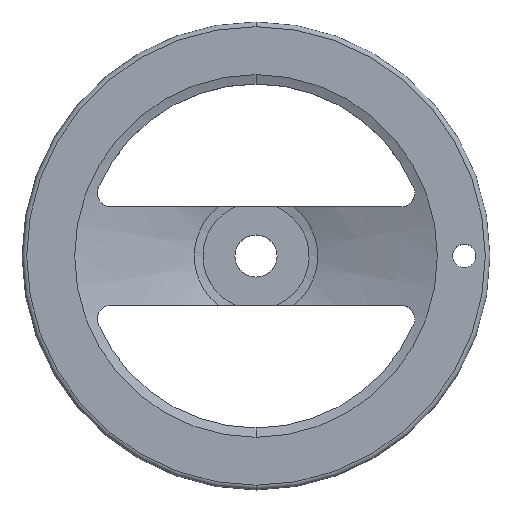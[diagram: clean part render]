
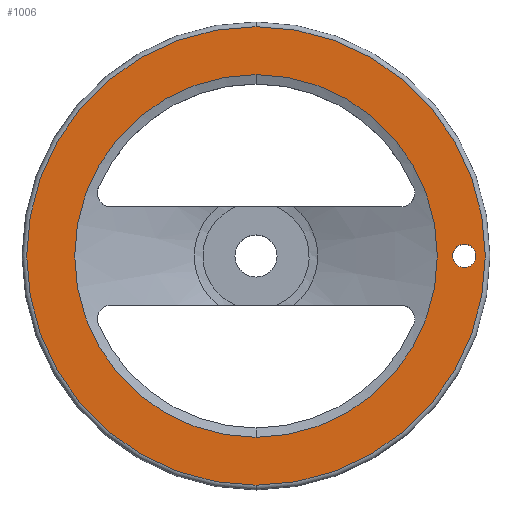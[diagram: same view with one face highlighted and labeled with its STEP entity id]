
A CAD part, top view. The second image highlights one B-rep face of the part: STEP entity #1006.
In plain terms, the highlighted planar face has unit normal (0, 0, 1).
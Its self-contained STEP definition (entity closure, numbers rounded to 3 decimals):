
#1 = ORIENTED_EDGE ( 'NONE', *, *, #875, .F. ) ;
#47 = ORIENTED_EDGE ( 'NONE', *, *, #577, .T. ) ;
#65 = DIRECTION ( 'NONE',  ( 0., -1., 0. ) ) ;
#79 = CIRCLE ( 'NONE', #584, 5. ) ;
#81 = CIRCLE ( 'NONE', #928, 77.5 ) ;
#93 = CARTESIAN_POINT ( 'NONE',  ( 0., 0., 45. ) ) ;
#149 = CIRCLE ( 'NONE', #177, 98. ) ;
#158 = CARTESIAN_POINT ( 'NONE',  ( 0., 77.5, 45. ) ) ;
#171 = FACE_BOUND ( 'NONE', #744, .T. ) ;
#177 = AXIS2_PLACEMENT_3D ( 'NONE', #1456, #651, #410 ) ;
#181 = FACE_OUTER_BOUND ( 'NONE', #1463, .T. ) ;
#192 = ORIENTED_EDGE ( 'NONE', *, *, #1490, .F. ) ;
#257 = PLANE ( 'NONE',  #492 ) ;
#298 = DIRECTION ( 'NONE',  ( 0., 0., -1. ) ) ;
#315 = DIRECTION ( 'NONE',  ( 0., 0., -1. ) ) ;
#337 = DIRECTION ( 'NONE',  ( 1., 0., 0. ) ) ;
#353 = CARTESIAN_POINT ( 'NONE',  ( 84., 0., 45. ) ) ;
#369 = CIRCLE ( 'NONE', #1203, 98. ) ;
#405 = CARTESIAN_POINT ( 'NONE',  ( -99.517, -99.176, 45. ) ) ;
#410 = DIRECTION ( 'NONE',  ( 0., 1., 0. ) ) ;
#420 = CARTESIAN_POINT ( 'NONE',  ( 89., 0., 45. ) ) ;
#432 = DIRECTION ( 'NONE',  ( 0., -1., 0. ) ) ;
#468 = CIRCLE ( 'NONE', #1323, 5. ) ;
#492 = AXIS2_PLACEMENT_3D ( 'NONE', #405, #735, #1097 ) ;
#521 = ORIENTED_EDGE ( 'NONE', *, *, #1152, .T. ) ;
#558 = DIRECTION ( 'NONE',  ( 0., 0., -1. ) ) ;
#577 = EDGE_CURVE ( 'NONE', #1181, #1319, #79, .T. ) ;
#584 = AXIS2_PLACEMENT_3D ( 'NONE', #420, #768, #1115 ) ;
#639 = AXIS2_PLACEMENT_3D ( 'NONE', #1016, #1246, #432 ) ;
#651 = DIRECTION ( 'NONE',  ( 0., 0., -1. ) ) ;
#656 = DIRECTION ( 'NONE',  ( 0., 1., 0. ) ) ;
#677 = EDGE_CURVE ( 'NONE', #1319, #1181, #468, .T. ) ;
#679 = CARTESIAN_POINT ( 'NONE',  ( 0., 98., 45. ) ) ;
#735 = DIRECTION ( 'NONE',  ( 0., 0., -1. ) ) ;
#744 = EDGE_LOOP ( 'NONE', ( #1461, #47 ) ) ;
#768 = DIRECTION ( 'NONE',  ( 0., 0., -1. ) ) ;
#807 = CIRCLE ( 'NONE', #639, 77.5 ) ;
#870 = ORIENTED_EDGE ( 'NONE', *, *, #1104, .T. ) ;
#875 = EDGE_CURVE ( 'NONE', #985, #1268, #149, .T. ) ;
#879 = EDGE_LOOP ( 'NONE', ( #521, #870 ) ) ;
#901 = CARTESIAN_POINT ( 'NONE',  ( 0., -77.5, 45. ) ) ;
#928 = AXIS2_PLACEMENT_3D ( 'NONE', #93, #558, #65 ) ;
#944 = VERTEX_POINT ( 'NONE', #158 ) ;
#985 = VERTEX_POINT ( 'NONE', #1079 ) ;
#1006 = ADVANCED_FACE ( 'NONE', ( #1086, #171, #181 ), #257, .F. ) ;
#1016 = CARTESIAN_POINT ( 'NONE',  ( 0., 0., 45. ) ) ;
#1079 = CARTESIAN_POINT ( 'NONE',  ( 0., -98., 45. ) ) ;
#1081 = CARTESIAN_POINT ( 'NONE',  ( 0., 0., 45. ) ) ;
#1086 = FACE_BOUND ( 'NONE', #879, .T. ) ;
#1097 = DIRECTION ( 'NONE',  ( 0., 1., 0. ) ) ;
#1104 = EDGE_CURVE ( 'NONE', #944, #1332, #807, .T. ) ;
#1115 = DIRECTION ( 'NONE',  ( 1., 0., 0. ) ) ;
#1137 = CARTESIAN_POINT ( 'NONE',  ( 94., 0., 45. ) ) ;
#1139 = CARTESIAN_POINT ( 'NONE',  ( 89., 0., 45. ) ) ;
#1152 = EDGE_CURVE ( 'NONE', #1332, #944, #81, .T. ) ;
#1181 = VERTEX_POINT ( 'NONE', #353 ) ;
#1203 = AXIS2_PLACEMENT_3D ( 'NONE', #1081, #298, #656 ) ;
#1246 = DIRECTION ( 'NONE',  ( 0., 0., -1. ) ) ;
#1268 = VERTEX_POINT ( 'NONE', #679 ) ;
#1319 = VERTEX_POINT ( 'NONE', #1137 ) ;
#1323 = AXIS2_PLACEMENT_3D ( 'NONE', #1139, #315, #337 ) ;
#1332 = VERTEX_POINT ( 'NONE', #901 ) ;
#1456 = CARTESIAN_POINT ( 'NONE',  ( 0., 0., 45. ) ) ;
#1461 = ORIENTED_EDGE ( 'NONE', *, *, #677, .T. ) ;
#1463 = EDGE_LOOP ( 'NONE', ( #192, #1 ) ) ;
#1490 = EDGE_CURVE ( 'NONE', #1268, #985, #369, .T. ) ;
